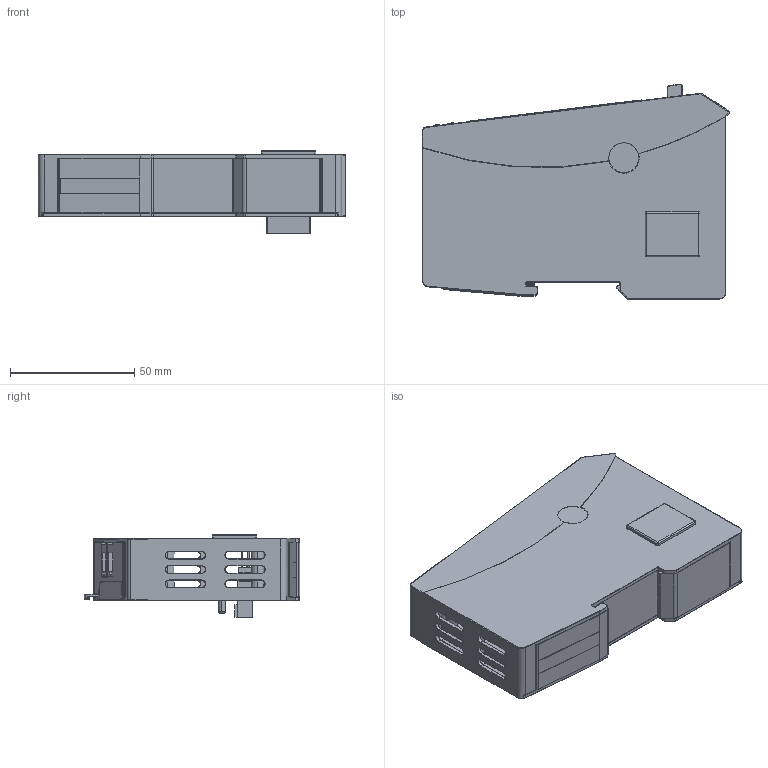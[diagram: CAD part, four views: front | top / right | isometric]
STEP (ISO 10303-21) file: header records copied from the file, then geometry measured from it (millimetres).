
FILE_DESCRIPTION(('CATIA V5 STEP Exchange'),'2;1');
FILE_NAME('Z:\DE\Automation\Data\Exchange\Dreiack\#694_Parker\3D-Daten 694\694_extender.stp','2014-05-09T08:16:42+00:00',('none'),('none'),'CATIA Version 5 Release 19 SP 9 (IN-10)','CATIA V5 STEP AP214','none');
FILE_SCHEMA(('AUTOMOTIVE_DESIGN { 1 0 10303 214 1 1 1 1 }'));
Products named in the file (1): Part59
Bounding box: 123.57 x 86.68 x 33.2 mm (x, y, z)
Volume: 72866 mm3; surface area: 90927.2 mm2
Topology: 3 solids, 16 shells, 3913 faces, 10368 edges, 6450 vertices
Faces by surface type: plane 2137, cylinder 1238, torus 287, cone 120, sphere 98, bspline 29, revolution 4
Entity records: 118672 total; most frequent: CARTESIAN_POINT 28389, ORIENTED_EDGE 20532, DIRECTION 15101, EDGE_CURVE 10266, VECTOR 6742, LINE 6742, VERTEX_POINT 6450, AXIS2_PLACEMENT_3D 5619
